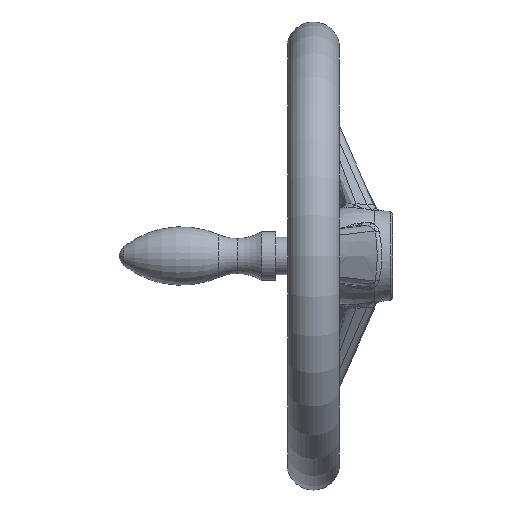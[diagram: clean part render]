
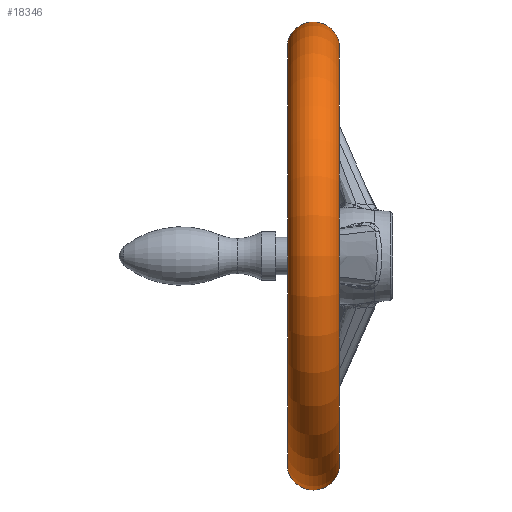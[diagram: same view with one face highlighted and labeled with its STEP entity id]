
A CAD part, left-side view. The second image highlights one B-rep face of the part: STEP entity #18346.
In plain terms, the highlighted toroidal (fillet/blend) face has major radius 88.778 mm and minor radius 11.222 mm.
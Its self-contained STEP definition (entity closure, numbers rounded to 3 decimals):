
#7625 = CIRCLE ( 'NONE', #7697, 11.222 ) ;
#7662 = DIRECTION ( 'NONE',  ( 0., 0., -1. ) ) ;
#7663 = DIRECTION ( 'NONE',  ( 1., 0., 0. ) ) ;
#7664 = CARTESIAN_POINT ( 'NONE',  ( 0., 34., 88.778 ) ) ;
#7668 = AXIS2_PLACEMENT_3D ( 'NONE', #7664, #7663, #7662 ) ;
#7685 = CIRCLE ( 'NONE', #7668, 11.222 ) ;
#7694 = DIRECTION ( 'NONE',  ( 0., 0., 1. ) ) ;
#7695 = DIRECTION ( 'NONE',  ( -1., 0., 0. ) ) ;
#7696 = CARTESIAN_POINT ( 'NONE',  ( 0., 34., -88.778 ) ) ;
#7697 = AXIS2_PLACEMENT_3D ( 'NONE', #7696, #7695, #7694 ) ;
#7803 = CIRCLE ( 'NONE', #7867, 91. ) ;
#7835 = CARTESIAN_POINT ( 'NONE',  ( 0., 45., 91. ) ) ;
#7849 = DIRECTION ( 'NONE',  ( 0., 0., -1. ) ) ;
#7850 = DIRECTION ( 'NONE',  ( 0., -1., 0. ) ) ;
#7860 = CARTESIAN_POINT ( 'NONE',  ( 0., 23., 91. ) ) ;
#7861 = CARTESIAN_POINT ( 'NONE',  ( 0., 23., -91. ) ) ;
#7862 = CARTESIAN_POINT ( 'NONE',  ( 0., 23., 0. ) ) ;
#7867 = AXIS2_PLACEMENT_3D ( 'NONE', #7862, #7850, #7849 ) ;
#7909 = CARTESIAN_POINT ( 'NONE',  ( 0., 45., 0. ) ) ;
#7943 = DIRECTION ( 'NONE',  ( 0., 0., -1. ) ) ;
#7944 = AXIS2_PLACEMENT_3D ( 'NONE', #7909, #7957, #7943 ) ;
#7945 = CIRCLE ( 'NONE', #7944, 91. ) ;
#7957 = DIRECTION ( 'NONE',  ( 0., -1., 0. ) ) ;
#8000 = CARTESIAN_POINT ( 'NONE',  ( 0., 45., -91. ) ) ;
#8419 = FACE_OUTER_BOUND ( 'NONE', #18291, .T. ) ;
#8424 = DIRECTION ( 'NONE',  ( 0., 0., -1. ) ) ;
#8425 = DIRECTION ( 'NONE',  ( 0., -1., 0. ) ) ;
#8427 = CARTESIAN_POINT ( 'NONE',  ( 0., 34., 0. ) ) ;
#8435 = TOROIDAL_SURFACE ( 'NONE', #8448, 88.778, 11.222 ) ;
#8448 = AXIS2_PLACEMENT_3D ( 'NONE', #8427, #8425, #8424 ) ;
#17993 = EDGE_CURVE ( 'NONE', #18208, #18094, #7625, .T. ) ;
#18022 = EDGE_CURVE ( 'NONE', #18063, #18095, #7685, .T. ) ;
#18063 = VERTEX_POINT ( 'NONE', #7835 ) ;
#18093 = EDGE_CURVE ( 'NONE', #18095, #18094, #7803, .T. ) ;
#18094 = VERTEX_POINT ( 'NONE', #7861 ) ;
#18095 = VERTEX_POINT ( 'NONE', #7860 ) ;
#18174 = EDGE_CURVE ( 'NONE', #18063, #18208, #7945, .T. ) ;
#18208 = VERTEX_POINT ( 'NONE', #8000 ) ;
#18291 = EDGE_LOOP ( 'NONE', ( #18322, #18349, #18317, #18374 ) ) ;
#18317 = ORIENTED_EDGE ( 'NONE', *, *, #17993, .T. ) ;
#18322 = ORIENTED_EDGE ( 'NONE', *, *, #18022, .F. ) ;
#18346 = ADVANCED_FACE ( 'NONE', ( #8419 ), #8435, .T. ) ;
#18349 = ORIENTED_EDGE ( 'NONE', *, *, #18174, .T. ) ;
#18374 = ORIENTED_EDGE ( 'NONE', *, *, #18093, .F. ) ;
